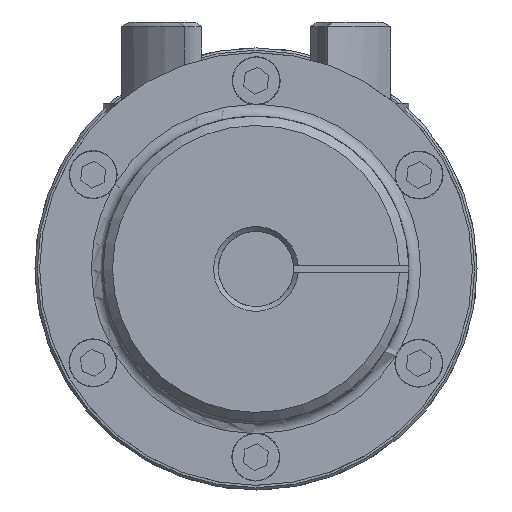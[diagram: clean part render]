
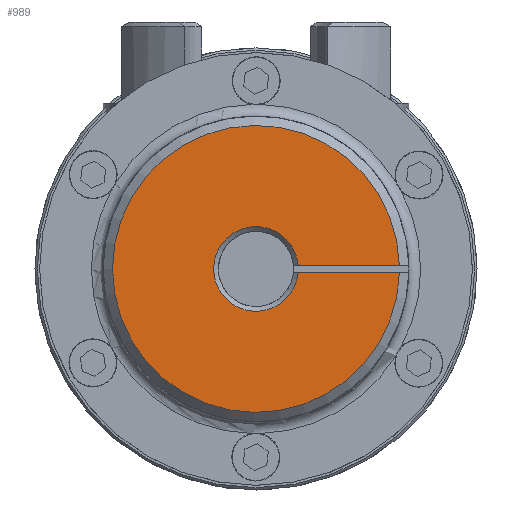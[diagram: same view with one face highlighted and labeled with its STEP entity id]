
A CAD part, left-side view. The second image highlights one B-rep face of the part: STEP entity #989.
In plain terms, the highlighted planar face has unit normal (-1, 0, 0) as drawn and (0, 0, -1) by its records, which use the part's own axes.
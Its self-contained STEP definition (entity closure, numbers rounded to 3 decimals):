
#989 = ADVANCED_FACE( '', ( #2060 ), #2061, .T. );
#2060 = FACE_OUTER_BOUND( '', #3084, .T. );
#2061 = PLANE( '', #3085 );
#3084 = EDGE_LOOP( '', ( #5438, #5439, #5440, #5441 ) );
#3085 = AXIS2_PLACEMENT_3D( '', #5442, #5443, #5444 );
#5438 = ORIENTED_EDGE( '', *, *, #6846, .F. );
#5439 = ORIENTED_EDGE( '', *, *, #6872, .T. );
#5440 = ORIENTED_EDGE( '', *, *, #6865, .T. );
#5441 = ORIENTED_EDGE( '', *, *, #6798, .T. );
#5442 = CARTESIAN_POINT( '', ( 0., 0., 0. ) );
#5443 = DIRECTION( '', ( 0., 0., -1. ) );
#5444 = DIRECTION( '', ( 0., -1., 0. ) );
#6798 = EDGE_CURVE( '', #7953, #7957, #7959, .F. );
#6846 = EDGE_CURVE( '', #8035, #7957, #8037, .T. );
#6865 = EDGE_CURVE( '', #8061, #7953, #8062, .F. );
#6872 = EDGE_CURVE( '', #8035, #8061, #8070, .T. );
#7953 = VERTEX_POINT( '', #10093 );
#7957 = VERTEX_POINT( '', #10100 );
#7959 = CIRCLE( '', #10105, 9. );
#8035 = VERTEX_POINT( '', #10267 );
#8037 = LINE( '', #10272, #10273 );
#8061 = VERTEX_POINT( '', #10310 );
#8062 = LINE( '', #10311, #10312 );
#8070 = CIRCLE( '', #10332, 30.5 );
#10093 = CARTESIAN_POINT( '', ( -8.969, -0.75, 0. ) );
#10100 = CARTESIAN_POINT( '', ( -8.969, 0.75, 0. ) );
#10105 = AXIS2_PLACEMENT_3D( '', #11609, #11610, #11611 );
#10267 = CARTESIAN_POINT( '', ( -30.491, 0.75, 0. ) );
#10272 = CARTESIAN_POINT( '', ( -32.5, 0.75, 0. ) );
#10273 = VECTOR( '', #11694, 1000. );
#10310 = CARTESIAN_POINT( '', ( -30.491, -0.75, 0. ) );
#10311 = CARTESIAN_POINT( '', ( 0., -0.75, 0. ) );
#10312 = VECTOR( '', #11732, 1000. );
#10332 = AXIS2_PLACEMENT_3D( '', #11739, #11740, #11741 );
#11609 = CARTESIAN_POINT( '', ( 0., 0., 0. ) );
#11610 = DIRECTION( '', ( 0., 0., -1. ) );
#11611 = DIRECTION( '', ( -1., 0., 0. ) );
#11694 = DIRECTION( '', ( 1., 0., 0. ) );
#11732 = DIRECTION( '', ( -1., 0., 0. ) );
#11739 = CARTESIAN_POINT( '', ( 0., 0., 0. ) );
#11740 = DIRECTION( '', ( 0., 0., -1. ) );
#11741 = DIRECTION( '', ( -1., 0., 0. ) );
